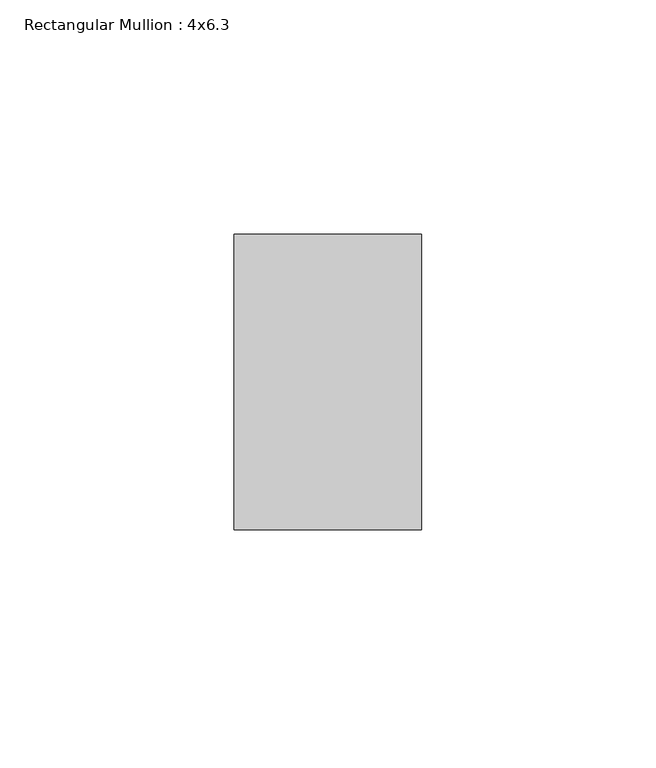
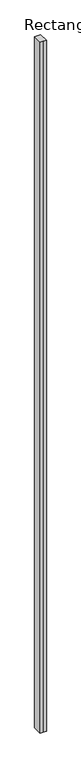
"""IFC4 building model written with IfcOpenShell, lengths in millimetres: member geometry, Rectangular Mullion : 4x6.3."""

from ifc_helpers import new_model, si_unit, frame, origin, place, context, project, spatial, polyline, outline, extrude, source, transform, mapped, element, save


def rectangular_mullion_4x6_3_88d058ba(model_context):
    return source(origin(), model_context, "Body", "SweptSolid", [
        extrude(outline(polyline([(-20.0, 20.0), (-20.0, 83.0), (20.0, 83.0), (20.0, 20.0), (0.0, 20.0), (-20.0, 20.0)])), frame((0.0, 0.0, -4797.9257504), z_axis=(0.0, 0.0, 1.0), x_axis=(1.0, 0.0, 0.0)), (0.0, 0.0, 1.0), 4797.9257504),
    ])


if __name__ == "__main__":
    model = new_model("IFC4")
    model_context = context("Model", 3, world=origin())
    ifc_project = project(units=[si_unit("LENGTHUNIT", "METRE", prefix="MILLI")], contexts=[model_context])
    site = spatial("IfcSite", under=ifc_project)
    building = spatial("IfcBuilding", under=site)
    placement = place(None, origin())
    rectangular_mullion_4x6_3_shape = rectangular_mullion_4x6_3_88d058ba(model_context)
    element("IfcMember", 1, ObjectType="Rectangular Mullion : 4x6.3", at=placement, inside=building, context=model_context, shape_type="MappedRepresentation", body=[
        mapped(rectangular_mullion_4x6_3_shape, transform((0.0, 0.0, 0.0), x_axis=(1.0, 0.0, 0.0), y_axis=(0.0, 1.0, 0.0), z_axis=(0.0, 0.0, 1.0))),
    ])
    save(model, "model.ifc")
